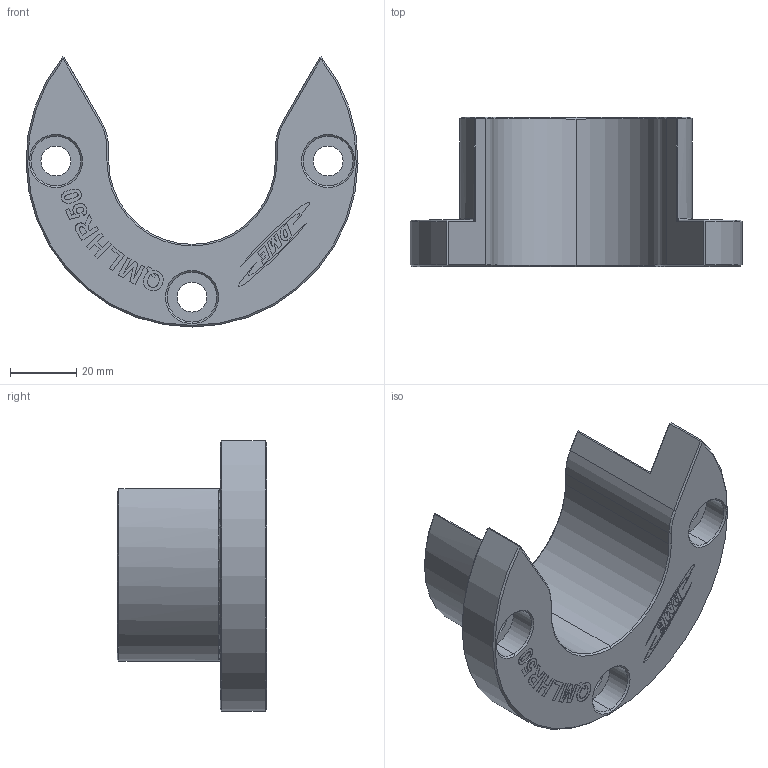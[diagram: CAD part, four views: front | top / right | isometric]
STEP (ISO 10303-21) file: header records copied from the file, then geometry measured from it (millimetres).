
FILE_DESCRIPTION (( 'STEP AP214' ), '1' );
FILE_NAME ('QMLHR50.STEP', '2022-04-29T14:44:02', ( '' ), ( '' ), 'SwSTEP 2.0', 'SolidWorks 2020', '' );
FILE_SCHEMA (( 'AUTOMOTIVE_DESIGN' ));
Length unit declared in the file: millimetre
Products named in the file (1): QMLHR50
Bounding box: 99.99 x 45 x 81.32 mm (x, y, z)
Volume: 86290 mm3; surface area: 22214.3 mm2
Topology: 1 solids, 1 shells, 237 faces, 602 edges, 386 vertices
Faces by surface type: plane 127, bspline 64, cone 24, cylinder 20, torus 2
Entity records: 10878 total; most frequent: CARTESIAN_POINT 3812, ORIENTED_EDGE 1204, DIRECTION 879, EDGE_CURVE 602, LINE 397, VECTOR 397, VERTEX_POINT 386, EDGE_LOOP 262
